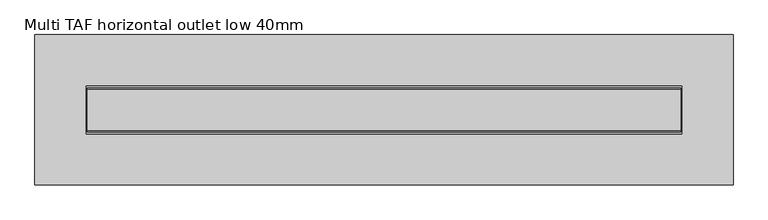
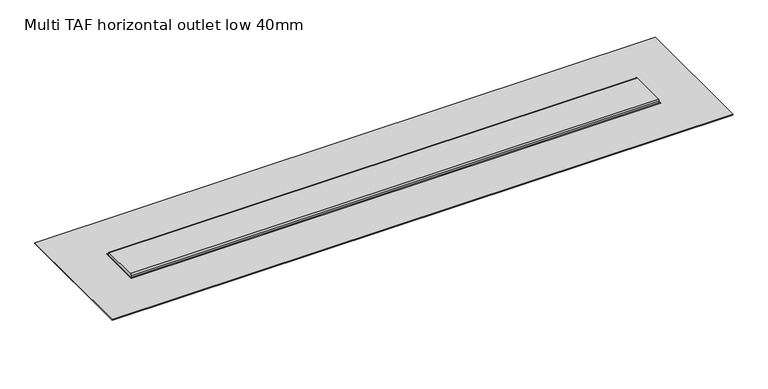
"""IFC4 building model written with IfcOpenShell, lengths in millimetres: sanitary terminal geometry, NLRS_PF_52_UN_Multi TAF uitloop_Easydrain : Multi TAF horizontal outlet low 40mm."""

from ifc_helpers import new_model, si_unit, point, frame, frame_2d, origin, place, context, project, spatial, polyline, circle_curve, trimmed, segment, composite_curve, outline, extrude, faceted_brep, source, transform, mapped, element, save
from ifc_brep_helpers import plane_surface, cylinder_surface, revolved_surface, advanced_brep


def multi_taf_horizontal_outlet_low_40mm_1422f05b(model_context):
    return source(origin(), model_context, "Body", "SolidModel", [
        advanced_brep(
        [(895.5, 0.0, -67.0), (889.5, 0.0, -67.0), (892.5, 0.0, -67.0), (895.5, 0.0, -78.5), (889.5, 0.0, -78.5), (907.5, 0.0, -86.0), (877.5, 0.0, -86.0), (892.5, 0.0, -86.0)],
        [
            (0, 1, circle_curve(frame((892.5, 0.0, -67.0), z_axis=(0.0, 0.0, 1.0), x_axis=(-1.0, 0.0, 0.0)), 3.0)),
            (1, 2),
            (2, 0),
            (1, 0, circle_curve(frame((892.5, 0.0, -67.0), z_axis=(0.0, 0.0, 1.0), x_axis=(-1.0, 0.0, 0.0)), 3.0)),
            (3, 4, circle_curve(frame((892.5, 0.0, -78.5), z_axis=(0.0, 0.0, 1.0), x_axis=(-1.0, 0.0, 0.0)), 3.0)),
            (4, 1),
            (0, 3),
            (4, 3, circle_curve(frame((892.5, 0.0, -78.5), z_axis=(0.0, 0.0, 1.0), x_axis=(-1.0, 0.0, 0.0)), 3.0)),
            (5, 6, circle_curve(frame((892.5, 0.0, -86.0), z_axis=(0.0, 0.0, 1.0), x_axis=(-1.0, 0.0, 0.0)), 15.0)),
            (6, 4),
            (3, 5),
            (6, 5, circle_curve(frame((892.5, 0.0, -86.0), z_axis=(0.0, 0.0, 1.0), x_axis=(-1.0, 0.0, 0.0)), 15.0)),
            (7, 6),
            (5, 7),
        ],
        [
            plane_surface(frame((892.5, 0.0, -67.0), z_axis=(0.0, 0.0, 1.0), x_axis=(-1.0, 0.0, 0.0))),
            cylinder_surface(frame((892.5, 0.0, -94.1782032), z_axis=(0.0, 0.0, -1.0), x_axis=(-1.0, 0.0, 0.0)), 3.0),
            revolved_surface(polyline([(889.5, 0.0, -78.5), (877.5, 0.0, -86.0)]), (892.5, 0.0, -94.1782032), (0.0, 0.0, -1.0)),
            plane_surface(frame((892.5, 0.0, -86.0), z_axis=(0.0, 0.0, -1.0), x_axis=(-1.0, 0.0, 0.0))),
        ],
        [
            (0, [[1, 2, 3]]),
            (0, [[4, -3, -2]]),
            (1, [[5, 6, -1, 7]]),
            (1, [[8, -7, -4, -6]]),
            (2, [[9, 10, -5, 11]]),
            (2, [[12, -11, -8, -10]]),
            (3, [[13, -9, 14]]),
            (3, [[-14, -12, -13]]),
        ],
    ),
        faceted_brep([(882.5, 10.0, -67.0), (902.5, 10.0, -67.0), (902.5, -10.0, -67.0), (882.5, -10.0, -67.0), (877.5, 15.0, -27.0), (877.5, -15.0, -27.0), (907.5, -15.0, -27.0), (907.5, 15.0, -27.0)], [[[0, 1, 2, 3]], [[4, 5, 6, 7]], [[5, 4, 0, 3]], [[6, 5, 3, 2]], [[7, 6, 2, 1]], [[4, 7, 1, 0]]]),
        advanced_brep(
        [(-189.5, 0.0, -67.0), (-195.5, 0.0, -67.0), (-192.5, 0.0, -67.0), (-189.5, 0.0, -78.5), (-195.5, 0.0, -78.5), (-177.5, 0.0, -86.0), (-207.5, 0.0, -86.0), (-192.5, 0.0, -86.0)],
        [
            (0, 1, circle_curve(frame((-192.5, 0.0, -67.0), z_axis=(0.0, 0.0, 1.0), x_axis=(-1.0, 0.0, 0.0)), 3.0)),
            (1, 2),
            (2, 0),
            (1, 0, circle_curve(frame((-192.5, 0.0, -67.0), z_axis=(0.0, 0.0, 1.0), x_axis=(-1.0, 0.0, 0.0)), 3.0)),
            (3, 4, circle_curve(frame((-192.5, 0.0, -78.5), z_axis=(0.0, 0.0, 1.0), x_axis=(-1.0, 0.0, 0.0)), 3.0)),
            (4, 1),
            (0, 3),
            (4, 3, circle_curve(frame((-192.5, 0.0, -78.5), z_axis=(0.0, 0.0, 1.0), x_axis=(-1.0, 0.0, 0.0)), 3.0)),
            (5, 6, circle_curve(frame((-192.5, 0.0, -86.0), z_axis=(0.0, 0.0, 1.0), x_axis=(-1.0, 0.0, 0.0)), 15.0)),
            (6, 4),
            (3, 5),
            (6, 5, circle_curve(frame((-192.5, 0.0, -86.0), z_axis=(0.0, 0.0, 1.0), x_axis=(-1.0, 0.0, 0.0)), 15.0)),
            (7, 6),
            (5, 7),
        ],
        [
            plane_surface(frame((-192.5, 0.0, -67.0), z_axis=(0.0, 0.0, 1.0), x_axis=(-1.0, 0.0, 0.0))),
            cylinder_surface(frame((-192.5, 0.0, -94.1782032), z_axis=(0.0, 0.0, -1.0), x_axis=(-1.0, 0.0, 0.0)), 3.0),
            revolved_surface(polyline([(-195.5, 0.0, -78.5), (-207.5, 0.0, -86.0)]), (-192.5, 0.0, -94.1782032), (0.0, 0.0, -1.0)),
            plane_surface(frame((-192.5, 0.0, -86.0), z_axis=(0.0, 0.0, -1.0), x_axis=(-1.0, 0.0, 0.0))),
        ],
        [
            (0, [[1, 2, 3]]),
            (0, [[4, -3, -2]]),
            (1, [[5, 6, -1, 7]]),
            (1, [[8, -7, -4, -6]]),
            (2, [[9, 10, -5, 11]]),
            (2, [[12, -11, -8, -10]]),
            (3, [[13, -9, 14]]),
            (3, [[-14, -12, -13]]),
        ],
    ),
        faceted_brep([(-202.5, 10.0, -67.0), (-182.5, 10.0, -67.0), (-182.5, -10.0, -67.0), (-202.5, -10.0, -67.0), (-207.5, 15.0, -27.0), (-207.5, -15.0, -27.0), (-177.5, -15.0, -27.0), (-177.5, 15.0, -27.0)], [[[0, 1, 2, 3]], [[4, 5, 6, 7]], [[5, 4, 0, 3]], [[6, 5, 3, 2]], [[7, 6, 2, 1]], [[4, 7, 1, 0]]]),
        extrude(outline(composite_curve([segment(polyline([(-40.0, 0.0), (40.0, 0.0)]), True, "CONTINUOUS"), segment(trimmed(circle_curve(frame_2d((40.0, -3.0)), 3.0), [point((40.0, 0.0))], [point((43.0, -3.0))], False, "CARTESIAN"), True, "CONTINUOUS"), segment(polyline([(43.0, -3.0), (43.0, -7.0), (-43.0, -7.0), (-43.0, -3.0)]), True, "CONTINUOUS"), segment(trimmed(circle_curve(frame_2d((-40.0, -3.0)), 3.0), [point((-43.0, -3.0))], [point((-40.0, 0.0))], False, "CARTESIAN"), True, "CONTINUOUS")], self_intersect=False)), frame((-230.5, 0.0, 0.0), z_axis=(1.0, 0.0, 0.0), x_axis=(0.0, 1.0, 0.0)), (0.0, 0.0, 1.0), 1161.0),
        extrude(outline(polyline([(1032.5, 147.0), (1032.5, -147.0), (-332.5, -147.0), (-332.5, 147.0), (1032.5, 147.0)]), holes=[polyline([(932.5, 47.0), (-232.5, 47.0), (-232.5, -47.0), (932.5, -47.0), (932.5, 47.0)])]), frame((0.0, 0.0, -8.0), z_axis=(0.0, 0.0, 1.0), x_axis=(1.0, 0.0, 0.0)), (0.0, 0.0, 1.0), 2.0),
        faceted_brep([(932.5, 47.0, -27.0), (-232.5, 47.0, -27.0), (-232.5, 47.0, -9.0), (932.5, 47.0, -9.0), (-232.5, -47.0, -27.0), (932.5, -47.0, -27.0), (932.5, -47.0, -9.0), (-232.5, -47.0, -9.0), (950.0, 64.5, -7.0), (-250.0, 64.5, -7.0), (-250.0, -81.5, -7.0), (950.0, -81.5, -7.0), (950.0, 64.5, -9.0), (950.0, -81.5, -9.0), (-250.0, -81.5, -9.0), (-250.0, 64.5, -9.0)], [[[0, 1, 2, 3]], [[4, 5, 6, 7]], [[1, 0, 5, 4]], [[5, 0, 3, 6]], [[8, 9, 10, 11]], [[1, 4, 7, 2]], [[12, 13, 14, 15], [3, 2, 7, 6]], [[9, 8, 12, 15]], [[10, 9, 15, 14]], [[11, 10, 14, 13]], [[8, 11, 13, 12]]]),
    ])


if __name__ == "__main__":
    model = new_model("IFC4")
    model_context = context("Model", 3, world=origin())
    ifc_project = project(units=[si_unit("LENGTHUNIT", "METRE", prefix="MILLI")], contexts=[model_context])
    site = spatial("IfcSite", under=ifc_project)
    building = spatial("IfcBuilding", under=site)
    placement = place(None, origin())
    multi_taf_horizontal_outlet_low_40mm_shape = multi_taf_horizontal_outlet_low_40mm_1422f05b(model_context)
    element("IfcSanitaryTerminal", 1, ObjectType="NLRS_PF_52_UN_Multi TAF uitloop_Easydrain : Multi TAF horizontal outlet low 40mm", at=placement, inside=building, context=model_context, shape_type="MappedRepresentation", body=[
        mapped(multi_taf_horizontal_outlet_low_40mm_shape, transform((0.0, 0.0, 0.0), x_axis=(1.0, 0.0, 0.0), y_axis=(0.0, 1.0, 0.0), z_axis=(0.0, 0.0, 1.0))),
    ])
    save(model, "model.ifc")
